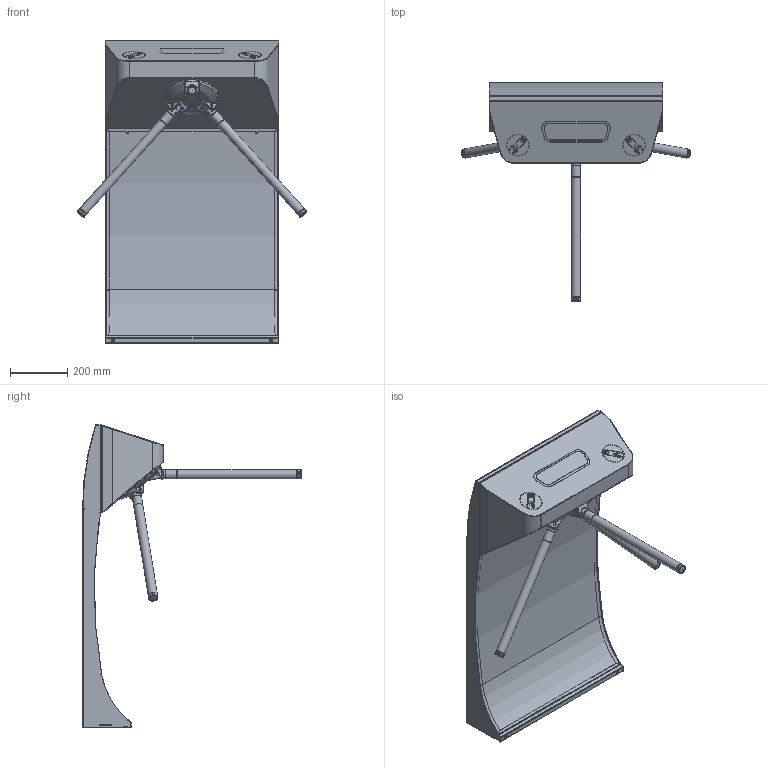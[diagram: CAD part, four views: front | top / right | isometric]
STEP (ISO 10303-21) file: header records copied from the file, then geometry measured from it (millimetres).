
FILE_DESCRIPTION(/* description */ ('Unknown'),/* implementation_level */ '2;1');
FILE_NAME(/* name */ 'TTR-11AB',/* time_stamp */ '2021-04-30T08:59:40+03:00',/* author */ ('Unknown'),/* organization */ ('Unknown'),/* preprocessor_version */ 'ST-DEVELOPER v16.7',/* originating_system */ 'Solid Edge',/* authorisation */ 'Unknown');
FILE_SCHEMA (('CONFIG_CONTROL_DESIGN'));
Length unit declared in the file: millimetre
Products named in the file (72): TTR-11AB.000.00 秜謺鴀殣 TTR-11A; TTR-11A.650.00 栺鍣罻_oa_0; TTR-11A.655.00 Ëèöåâàÿ ïàíåëü_oa_1; TTR-11A.656.00 忺謤僔_oa_2; TTR-11A.658.00 Ëèñò â ñáîðå (äëÿ ñáîðêè)_oa_3; TTR-11A.655.01-02 Ëèñò (äëÿ ñáîðêè); TTR-11A.655.02 Äåêîðàòèâíàÿ íàêëàäêà; 鎔艜_M5x16_DIN_7991; TTR-11A.652.00 忺謤僔_oa_4; TTR-11A.652.03 ﾏ鸙; TTR-10A.652.04 Ïîäïÿòíèê; TTR-11A.651.00-02 Íàêëàäêà â ñáîðå; TTR-11A.651.01-02 Íàêëàäêà çàäíÿÿ; Øïèëüêà_ïðèâàðíàÿ_Ì3õ16_íåðæ._À2; TTR-11A.000.00 秜謺鴀殣_oa_5; TTR-11A.200.00 极矐膻賚_oa_6; TTR-11.110.00 ﾄ濵 湜軅oa_7; TTR-11.110.01 侲膹馯罻; TTR-11.111.00 瓔螵oa_8; TTR-10.120.00 ﾄ濵 粢_oa_9; TTR-10.121.00 ﾎ魵瑙韃 瑩濵蘋oa_10; TTR-10.810.00 栺闀闉_oa_11; WMD-06.020.00 懾譈鴀 闀蠂灚齕鴇_oa_12; WMD-06.720.00 Ïëàòà äàò÷èêà îïòè÷åñêîãî_oa_13; TTR-10.811.00-03 栺闀闉 餛oa_14; TTR-10.815.00 楋樏襝鍎飹膻瀖oa_15; Ýëåêòðîìàãíèò ÌÒÒ-2551_6V_oa_16; TTR-10.250.00 沓劌錪 鳧蠂櫡膻膱_oa_17; TTR-10.657.00 厌铕赅 尻蝠铎嚆龛蜞_oa_18; Ýëåêòðîìàãíèò TM-3864B-12_oa_19; TTR-07.656.00-01 趶槶 鼁豂黟_oa_20; TTR-10.220.00 砎魤鍱_oa_21; TTR-10.211.00 秬謽鍡_oa_22; TTR-10.213.00 Äâèãàòåëü â ñáîðå_oa_23; Äâèãàòåëü LD-100DZ-0001_oa_24; LD-100DZ-0001_匎襜禬oa_25; LD-100DZ-0001_栺僗闉_oa_26; TTR-10.224.00 玉桦栩咫黖oa_27; TTR-10.225.00 ﾊ煇鳫 鰀濱oa_28; TTR-10.212.00 Âàë â ñáîðå_oa_29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
Assembly tree (93 placements, depth 7):
  TTR-11AB.000.00 秜謺鴀殣 TTR-11A
    TTR-11A.650.00 栺鍣罻_oa_0
      TTR-11A.655.00 Ëèöåâàÿ ïàíåëü_oa_1
        TTR-11A.656.00 忺謤僔_oa_2
        TTR-11A.658.00 Ëèñò â ñáîðå (äëÿ ñáîðêè)_oa_3
          TTR-11A.655.01-02 Ëèñò (äëÿ ñáîðêè)
        TTR-11A.655.02 Äåêîðàòèâíàÿ íàêëàäêà
      鎔艜_M5x16_DIN_7991  x2
      TTR-11A.652.00 忺謤僔_oa_4
        TTR-11A.652.03 ﾏ鸙
        TTR-10A.652.04 Ïîäïÿòíèê  x4
      TTR-11A.651.00-02 Íàêëàäêà â ñáîðå
        TTR-11A.651.01-02 Íàêëàäêà çàäíÿÿ
        Øïèëüêà_ïðèâàðíàÿ_Ì3õ16_íåðæ._À2  x2
    TTR-11A.000.00 秜謺鴀殣_oa_5
      TTR-11A.200.00 极矐膻賚_oa_6
        TTR-11.110.00 ﾄ濵 湜軅oa_7
          TTR-11.110.01 侲膹馯罻
          TTR-11.111.00 瓔螵oa_8
        TTR-10.120.00 ﾄ濵 粢_oa_9
          TTR-10.121.00 ﾎ魵瑙韃 瑩濵蘋oa_10
        TTR-10.810.00 栺闀闉_oa_11
          WMD-06.020.00 懾譈鴀 闀蠂灚齕鴇_oa_12
            WMD-06.720.00 Ïëàòà äàò÷èêà îïòè÷åñêîãî_oa_13
          TTR-10.811.00-03 栺闀闉 餛oa_14
          TTR-10.815.00 楋樏襝鍎飹膻瀖oa_15
            Ýëåêòðîìàãíèò ÌÒÒ-2551_6V_oa_16
        TTR-10.250.00 沓劌錪 鳧蠂櫡膻膱_oa_17
          TTR-10.657.00 厌铕赅 尻蝠铎嚆龛蜞_oa_18
            Ýëåêòðîìàãíèò TM-3864B-12_oa_19
          TTR-07.656.00-01 趶槶 鼁豂黟_oa_20
        TTR-10.220.00 砎魤鍱_oa_21
          TTR-10.211.00 秬謽鍡_oa_22
          TTR-10.213.00 Äâèãàòåëü â ñáîðå_oa_23
            Äâèãàòåëü LD-100DZ-0001_oa_24
              LD-100DZ-0001_匎襜禬oa_25
              LD-100DZ-0001_栺僗闉_oa_26
          TTR-10.224.00 玉桦栩咫黖oa_27
          TTR-10.225.00 ﾊ煇鳫 鰀濱oa_28
          TTR-10.212.00 Âàë â ñáîðå_oa_29
      TTR-11A.300.00 扻錝魛_oa_30
        TTR-11.320.00-02 扻錝魛 鼀僦膼嶱oa_31
        TTR-11A.300.09 栺樏鋋
        TTR-11A.340.00 Èíäèêàöèÿ_oa_32
          TTR-11A.346.00 扰鍙欙樥燲oa_33
          TTD10A.345.00 扻豂塺oa_34
        TTR-11.350.03-01 侲膹馯罻
        TTR-11.320.01 眈翴錪
        TTR-11A.361.00 鎚蠉瞃趌oa_35
        TTR-11A.195.00-01 扰鍙欙樥燲oa_36
        TTR-11A.195.00 扰鍙欙樥燲oa_37
      TTR-11A.010.00 ﾎ魵 ﾑﾁ_oa_38
        TTR-11.112.00 ﾎ魵 瑩濵饑oa_39
      TTR-10A.400.00 醜諘 瀇僗_oa_40
        TTR-10.410.00 Îñíîâàíèå ïëàòû óïðàâëåíèÿ_oa_41
        TTR-10.430.00 Îñíîâàíèå ïëàòû èíòåðôåéñà_oa_42
        TTR-10.420.00 Êàáåëü ñâÿçè_oa_43
      TTR-07.307.00-04 栖闉罻 憵羻睯罻_oa_44
        TTR-07.301.01-05 枟羻睯獥r1
        TTR-07.630.00-03 Ïëàíêà ïðåãðàæäàþùàÿ_oa_45
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Bounding box: 799.15 x 762.81 x 1054.5 mm (x, y, z)
Volume: 3680819.7 mm3; surface area: 3934484.4 mm2
Topology: 43 solids, 43 shells, 2195 faces, 5613 edges, 3476 vertices
Faces by surface type: cylinder 708, plane 673, bspline 338, cone 207, torus 189, sphere 80
Full cylindrical faces by diameter (mm): 0.5 x2, 2.4 x2, 3 x4, 3.2 x4, 3.242 x27, 4.019 x6, 4.134 x6, 4.5 x2, 5 x21, 6.466 x3, 8 x9, 9 x3, 10 x27, 10.5 x4, 10.8 x2, 12 x4, 13 x3, 14 x4, 14.5 x3, 20 x1, 23.4 x3, 27 x6, 28 x3, 28.5 x6, 32 x9, 76 x2, 80 x2, 185 x1, 191 x1
Entity records: 68117 total; most frequent: CARTESIAN_POINT 23390, ORIENTED_EDGE 8612, DIRECTION 8028, EDGE_CURVE 4306, AXIS2_PLACEMENT_3D 3261, VERTEX_POINT 2781, FACE_BOUND 2153, EDGE_LOOP 2139
